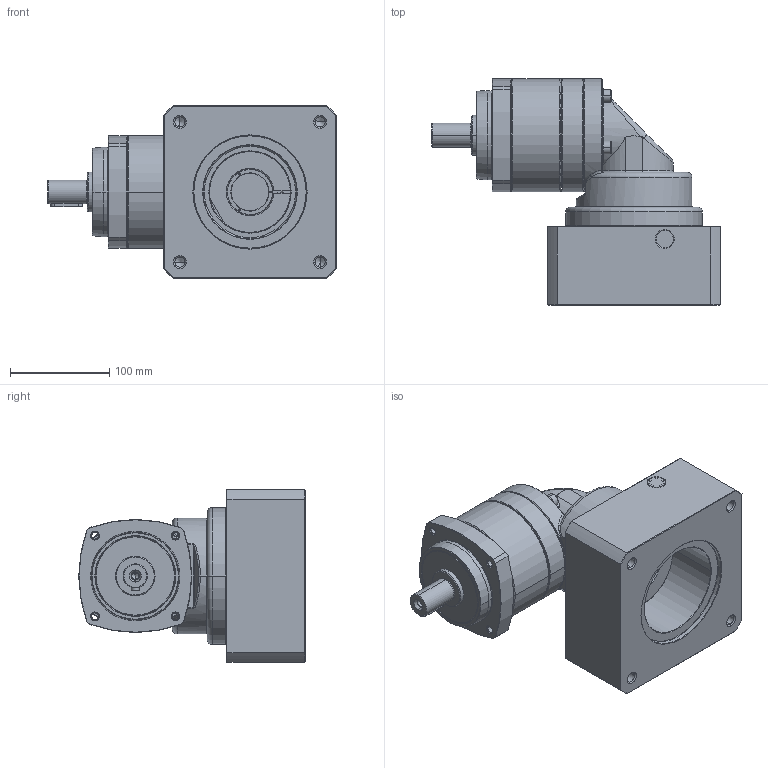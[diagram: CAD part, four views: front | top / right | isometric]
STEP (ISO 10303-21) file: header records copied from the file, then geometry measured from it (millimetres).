
FILE_DESCRIPTION((''),'2;1');
FILE_NAME('PS2R-D_1ST_38-P0411900101_ASM','2016-05-30T',('d01943'),(''),'PRO/ENGINEER BY PARAMETRIC TECHNOLOGY CORPORATION, 2008410','PRO/ENGINEER BY PARAMETRIC TECHNOLOGY CORPORATION, 2008410','');
FILE_SCHEMA(('CONFIG_CONTROL_DESIGN'));
Length unit declared in the file: millimetre
Products named in the file (12): P1328410001; P0250400001; P0350401401; P1349400001; P1017400001; P0713405001; P0503900010; P1350400501; P0411900101; P1702600001; 2111B108035; PS2R-D_1ST_38-P0411900101_ASM
Assembly tree (14 placements, depth 2):
  PS2R-D_1ST_38-P0411900101_ASM
    P1328410001
    P0250400001
    P0350401401
    P1349400001
    P1017400001
    P0713405001
    P0503900010
    P1350400501
    P0411900101
    P1702600001
    2111B108035  x4
Bounding box: 291 x 228.5 x 174 mm (x, y, z)
Volume: 3308899.2 mm3; surface area: 441449.9 mm2
Topology: 14 solids, 14 shells, 699 faces, 1547 edges, 898 vertices
Faces by surface type: cylinder 212, cone 208, plane 155, torus 90, bspline 34
Entity records: 22579 total; most frequent: CARTESIAN_POINT 9108, DIRECTION 2963, ORIENTED_EDGE 2618, EDGE_CURVE 1309, AXIS2_PLACEMENT_3D 1253, VERTEX_POINT 778, EDGE_LOOP 681, CIRCLE 661
